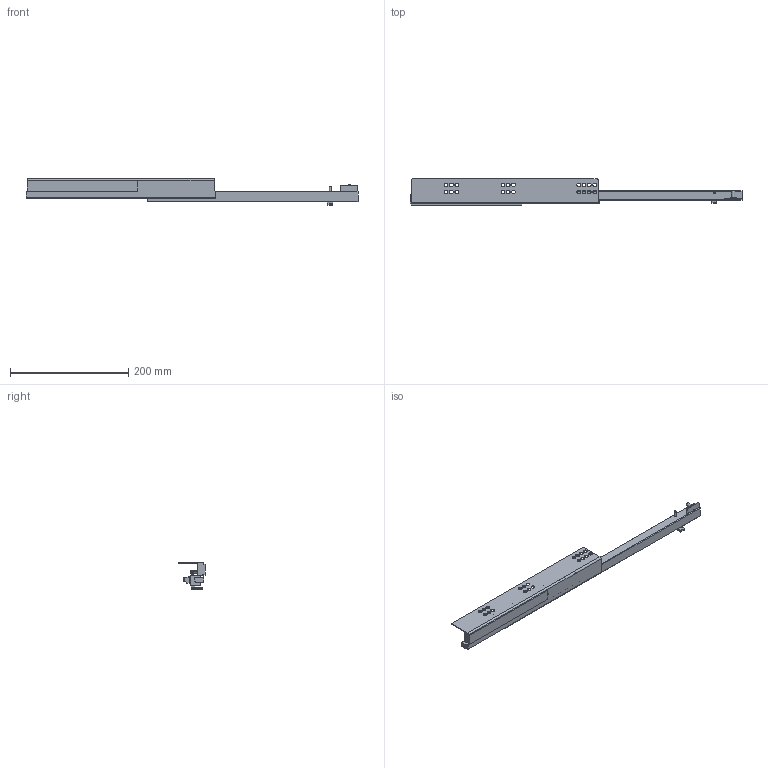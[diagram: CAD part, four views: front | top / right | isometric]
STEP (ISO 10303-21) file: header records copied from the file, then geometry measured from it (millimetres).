
FILE_DESCRIPTION (( 'STEP AP203' ), '1' );
FILE_NAME ('GG10450H-L-DTC3D-open.STEP', '2021-07-02T01:02:48', ( 'df' ), ( 'Microsoft' ), 'SwSTEP 2.0', 'SolidWorks 2018', '' );
FILE_SCHEMA (( 'CONFIG_CONTROL_DESIGN' ));
Length unit declared in the file: millimetre
Products named in the file (1): GG10450H-L-DTC3D-open
Bounding box: 561 x 44.1 x 44.73 mm (x, y, z)
Volume: 208970.4 mm3; surface area: 78217.1 mm2
Topology: 1 solids, 1 shells, 172 faces, 479 edges, 311 vertices
Faces by surface type: cylinder 88, plane 76, bspline 4, sphere 2, cone 2
Entity records: 5746 total; most frequent: CARTESIAN_POINT 1127, ORIENTED_EDGE 954, DIRECTION 951, EDGE_CURVE 477, AXIS2_PLACEMENT_3D 335, VERTEX_POINT 311, LINE 281, VECTOR 281
